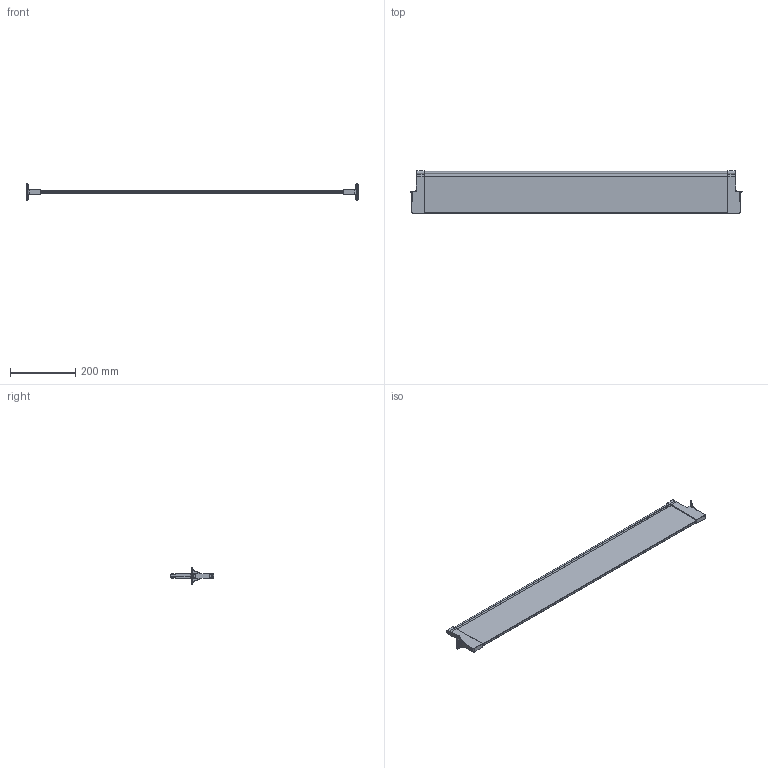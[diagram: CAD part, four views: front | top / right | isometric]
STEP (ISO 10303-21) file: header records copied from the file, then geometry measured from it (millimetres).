
FILE_DESCRIPTION (( 'STEP AP214' ), '1' );
FILE_NAME ('Nova-Pro P622 Querteiler H90Nova PRO Querteiler_H90_KAB 1100_16.step', '2009-11-06T06:59:41', ( 'Waldinger Reinhard' ), ( 'Grass GmbH' ), 'SwSTEP 2.0', 'SolidWorks 2009', '' );
FILE_SCHEMA (( 'AUTOMOTIVE_DESIGN' ));
Length unit declared in the file: millimetre
Products named in the file (1): Nova-Pro P622 Querteiler H90Nova PRO Querteiler_H90_KAB 1100_16
Bounding box: 1018.1 x 132 x 49.97 mm (x, y, z)
Volume: 1056909.8 mm3; surface area: 275601.9 mm2
Topology: 1 solids, 1 shells, 248 faces, 578 edges, 334 vertices
Faces by surface type: cylinder 107, bspline 64, plane 51, torus 12, sphere 12, cone 2
Entity records: 11002 total; most frequent: CARTESIAN_POINT 5879, ORIENTED_EDGE 1148, DIRECTION 966, EDGE_CURVE 574, AXIS2_PLACEMENT_3D 369, VERTEX_POINT 334, EDGE_LOOP 254, ADVANCED_FACE 248
